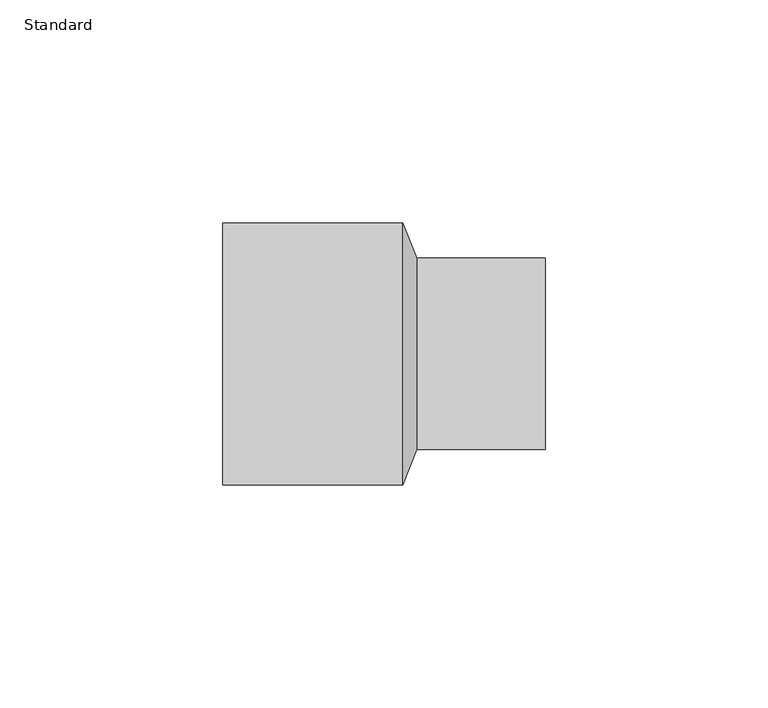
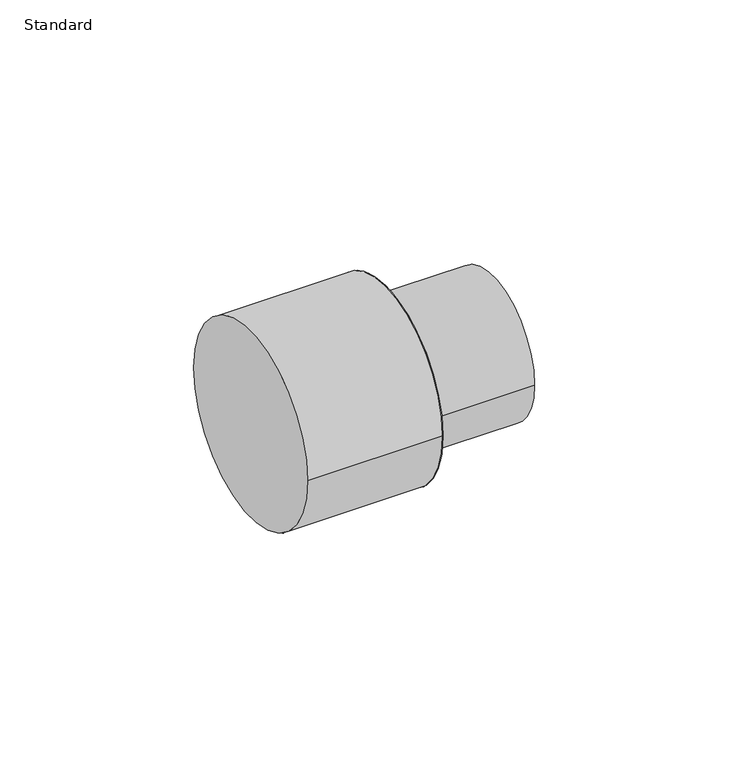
"""IFC4 building model written with IfcOpenShell, lengths in millimetres: pipe fitting geometry, M_Coupling Reducing - CPVC - Sch 40 : Standard."""

from ifc_helpers import new_model, si_unit, point, frame, origin, origin_2d, place, context, project, spatial, polyline, circle_curve, trimmed, segment, composite_curve, outline, extrude, source, transform, mapped, element, save
from ifc_brep_helpers import plane_surface, revolved_surface, advanced_brep


def standard_77f9104c(model_context):
    return source(origin(), model_context, "Body", "SolidModel", [
        advanced_brep(
        [(43.496875, -21.463, 0.0), (43.496875, 21.463, 0.0), (40.321875, -29.3949219, 0.0), (40.321875, 29.3949219, 0.0)],
        [
            (0, 1, circle_curve(frame((43.496875, 0.0, 0.0), z_axis=(1.0, -4.273914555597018e-12, 0.0), x_axis=(-4.273894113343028e-12, -1.0, 0.0)), 21.463)),
            (1, 0, circle_curve(frame((43.496875, 0.0, 0.0), z_axis=(1.0, -4.273914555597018e-12, 0.0), x_axis=(4.273894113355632e-12, 1.0, 0.0)), 21.463)),
            (2, 3, circle_curve(frame((40.321875, 0.0, 0.0), z_axis=(-1.0, 4.273914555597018e-12, 0.0), x_axis=(4.273894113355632e-12, 1.0, 0.0)), 29.3949219)),
            (3, 2, circle_curve(frame((40.321875, 0.0, 0.0), z_axis=(-1.0, 4.273914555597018e-12, 0.0), x_axis=(-4.273894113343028e-12, -1.0, 0.0)), 29.3949219)),
            (3, 1),
            (0, 2),
        ],
        [
            plane_surface(frame((43.496875, 0.0, 0.0), z_axis=(1.0, 0.0, 0.0), x_axis=(0.0, 0.0, -1.0))),
            plane_surface(frame((40.321875, 0.0, 0.0), z_axis=(-1.0, 0.0, 0.0), x_axis=(0.0, 0.0, -1.0))),
            revolved_surface(polyline([(43.496875, -21.462999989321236, 0.0), (40.32187499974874, -29.394921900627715, 0.0)]), (52.0881125, 0.0, 0.0), (-1.0, 4.273914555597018e-12, 0.0)),
            revolved_surface(polyline([(43.496875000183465, 21.462999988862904, 0.0), (40.321875, 29.3949219, 0.0)]), (52.0881125, 0.0, 0.0), (-1.0, 4.273914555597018e-12, 0.0)),
        ],
        [
            (0, [[1, 2]]),
            (1, [[3, 4]]),
            (2, [[-4, 5, -1, 6]]),
            (3, [[-3, -6, -2, -5]]),
        ],
    ),
        extrude(outline(composite_curve([segment(trimmed(circle_curve(origin_2d(), 21.463), [point((-21.463, 0.0))], [point((21.463, 0.0))], False, "CARTESIAN"), True, "CONTINUOUS"), segment(trimmed(circle_curve(origin_2d(), 21.463), [point((21.463, 0.0))], [point((-21.463, 0.0))], False, "CARTESIAN"), True, "CONTINUOUS")], self_intersect=False)), frame((43.496875, 0.0, 0.0), z_axis=(1.0, 0.0, 0.0), x_axis=(0.0, 1.0, 0.0)), (0.0, 0.0, 1.0), 28.702),
        extrude(outline(composite_curve([segment(trimmed(circle_curve(origin_2d(), 29.3949219), [point((-29.3949219, 0.0))], [point((29.3949219, 0.0))], False, "CARTESIAN"), True, "CONTINUOUS"), segment(trimmed(circle_curve(origin_2d(), 29.3949219), [point((29.3949219, 0.0))], [point((-29.3949219, 0.0))], False, "CARTESIAN"), True, "CONTINUOUS")], self_intersect=False)), frame((0.0, 0.0, 0.0), z_axis=(1.0, 0.0, 0.0), x_axis=(0.0, 1.0, 0.0)), (0.0, 0.0, 1.0), 40.321875),
    ])


if __name__ == "__main__":
    model = new_model("IFC4")
    model_context = context("Model", 3, world=origin())
    ifc_project = project(units=[si_unit("LENGTHUNIT", "METRE", prefix="MILLI")], contexts=[model_context])
    site = spatial("IfcSite", under=ifc_project)
    building = spatial("IfcBuilding", under=site)
    placement = place(None, origin())
    standard_shape = standard_77f9104c(model_context)
    element("IfcPipeFitting", 1, ObjectType="M_Coupling Reducing - CPVC - Sch 40 : Standard", at=placement, inside=building, context=model_context, shape_type="MappedRepresentation", body=[
        mapped(standard_shape, transform((0.0, 0.0, 0.0), x_axis=(1.0, 0.0, 0.0), y_axis=(0.0, 1.0, 0.0), z_axis=(0.0, 0.0, 1.0))),
    ])
    save(model, "model.ifc")
